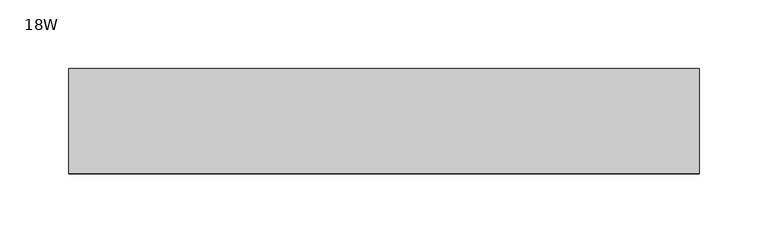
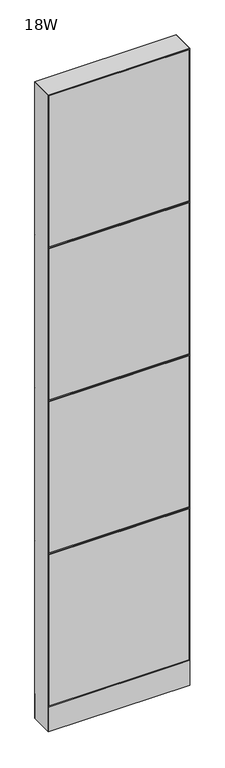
"""IFC4 building model written with IfcOpenShell, lengths in millimetres: furniture geometry, Steelcase - Montage - Frame - 86H - Enhanced Standard - Base Cavity : 18W."""

from ifc_helpers import new_model, si_unit, point, frame, frame_2d, origin, origin_with_axes, place, context, project, spatial, polyline, circle_curve, trimmed, segment, composite_curve, outline, extrude, faceted_brep, source, transform, mapped, element, save


def furniture_18w_77195693(model_context):
    return source(origin(), model_context, "Body", "SolidModel", [
        faceted_brep([(-5.4e-06, 38.102627, 1136.6500027), (6.3499917, 31.7526299, 1142.9999997), (450.8500047, 31.7526299, 1142.9999997), (457.2, 38.1026253, 1136.6500044), (450.8500047, 31.7526299, 1130.3000003), (6.3499917, 31.7526299, 1130.3000003)], [[[0, 1, 2, 3]], [[3, 4, 5, 0]], [[1, 5, 4, 2]], [[0, 5, 1]], [[2, 4, 3]]]),
        faceted_brep([(-5.4e-06, 38.102627, 612.7750027), (6.3499917, 31.7526299, 619.1249997), (450.8500047, 31.7526299, 619.1249997), (457.2, 38.1026253, 612.7750044), (450.8500047, 31.7526299, 606.4250003), (6.3499917, 31.7526299, 606.4250003)], [[[0, 1, 2, 3]], [[3, 4, 5, 0]], [[1, 5, 4, 2]], [[0, 5, 1]], [[2, 4, 3]]]),
        faceted_brep([(-5.4e-06, 38.102627, 1660.5250027), (6.3499917, 31.7526299, 1666.8749997), (450.8500047, 31.7526299, 1666.8749997), (457.2, 38.1026253, 1660.5250044), (450.8500047, 31.7526299, 1654.1750003), (6.3499917, 31.7526299, 1654.1750003)], [[[0, 1, 2, 3]], [[3, 4, 5, 0]], [[1, 5, 4, 2]], [[0, 5, 1]], [[2, 4, 3]]]),
        extrude(outline(polyline([(3.175, 31.7500194), (3.175, 38.1000194), (454.025, 38.1000194), (454.025, 31.7500194), (3.175, 31.7500194)])), frame((0.0, 0.0, 1663.7), z_axis=(0.0, 0.0, 1.0), x_axis=(1.0, 0.0, 0.0)), (0.0, 0.0, 1.0), 517.525),
        extrude(outline(polyline([(3.175, 31.7500194), (3.175, 38.1000194), (454.025, 38.1000194), (454.025, 31.7500194), (3.175, 31.7500194)])), frame((0.0, 0.0, 92.075), z_axis=(0.0, 0.0, 1.0), x_axis=(1.0, 0.0, 0.0)), (0.0, 0.0, 1.0), 517.525),
        extrude(outline(polyline([(3.175, 31.7500194), (3.175, 38.1000194), (454.025, 38.1000194), (454.025, 31.7500194), (3.175, 31.7500194)])), frame((0.0, 0.0, 615.95), z_axis=(0.0, 0.0, 1.0), x_axis=(1.0, 0.0, 0.0)), (0.0, 0.0, 1.0), 517.525),
        extrude(outline(polyline([(3.175, 31.7500194), (3.175, 38.1000194), (454.025, 38.1000194), (454.025, 31.7500194), (3.175, 31.7500194)])), frame((0.0, 0.0, 1139.825), z_axis=(0.0, 0.0, 1.0), x_axis=(1.0, 0.0, 0.0)), (0.0, 0.0, 1.0), 517.525),
        faceted_brep([(0.0, -38.1026297, 1136.65), (457.2, -38.1026297, 1136.65), (450.8500047, -31.7526299, 1142.9999997), (6.3499917, -31.7526299, 1142.9999997), (6.3499917, -31.7526299, 1130.3000003), (450.8500047, -31.7526299, 1130.3000003)], [[[0, 1, 2, 3]], [[1, 0, 4, 5]], [[3, 2, 5, 4]], [[0, 3, 4]], [[2, 1, 5]]]),
        faceted_brep([(0.0, -38.1026297, 612.775), (457.2, -38.1026297, 612.775), (450.8500047, -31.7526299, 619.1249997), (6.3499917, -31.7526299, 619.1249997), (6.3499917, -31.7526299, 606.4250003), (450.8500047, -31.7526299, 606.4250003)], [[[0, 1, 2, 3]], [[1, 0, 4, 5]], [[3, 2, 5, 4]], [[0, 3, 4]], [[2, 1, 5]]]),
        faceted_brep([(0.0, -38.1026297, 1660.525), (457.2, -38.1026297, 1660.525), (450.8500047, -31.7526299, 1666.8749997), (6.3499917, -31.7526299, 1666.8749997), (6.3499917, -31.7526299, 1654.1750003), (450.8500047, -31.7526299, 1654.1750003)], [[[0, 1, 2, 3]], [[1, 0, 4, 5]], [[3, 2, 5, 4]], [[0, 3, 4]], [[2, 1, 5]]]),
        extrude(outline(polyline([(3.175, -31.7500194), (454.025, -31.7500194), (454.025, -38.1000194), (3.175, -38.1000194), (3.175, -31.7500194)])), frame((0.0, 0.0, 1663.7), z_axis=(0.0, 0.0, 1.0), x_axis=(1.0, 0.0, 0.0)), (0.0, 0.0, 1.0), 517.525),
        extrude(outline(polyline([(3.175, -31.7500194), (454.025, -31.7500194), (454.025, -38.1000194), (3.175, -38.1000194), (3.175, -31.7500194)])), frame((0.0, 0.0, 92.075), z_axis=(0.0, 0.0, 1.0), x_axis=(1.0, 0.0, 0.0)), (0.0, 0.0, 1.0), 517.525),
        extrude(outline(polyline([(3.175, -31.7500194), (454.025, -31.7500194), (454.025, -38.1000194), (3.175, -38.1000194), (3.175, -31.7500194)])), frame((0.0, 0.0, 615.95), z_axis=(0.0, 0.0, 1.0), x_axis=(1.0, 0.0, 0.0)), (0.0, 0.0, 1.0), 517.525),
        extrude(outline(polyline([(3.175, -31.7500194), (454.025, -31.7500194), (454.025, -38.1000194), (3.175, -38.1000194), (3.175, -31.7500194)])), frame((0.0, 0.0, 1139.825), z_axis=(0.0, 0.0, 1.0), x_axis=(1.0, 0.0, 0.0)), (0.0, 0.0, 1.0), 517.525),
        extrude(outline(polyline([(6.350003, -31.7499985), (450.849997, -31.7499985), (457.2, -38.1000015), (0.0, -38.1000015), (6.350003, -31.7499985)])), frame((0.0, 0.0, 4.064), z_axis=(0.0, 0.0, 1.0), x_axis=(1.0, 0.0, 0.0)), (0.0, 0.0, 1.0), 84.835997),
        extrude(outline(polyline([(6.3500002, 31.7500017), (0.0, 38.1000015), (457.2, 38.1000015), (450.8500002, 31.7500017), (6.3500002, 31.7500017)])), frame((0.0, 0.0, 4.064), z_axis=(0.0, 0.0, 1.0), x_axis=(1.0, 0.0, 0.0)), (0.0, 0.0, 1.0), 84.835997),
        faceted_brep([(457.2, -38.1000015, 2184.4), (0.0, -38.1000015, 2184.4), (6.3500484, -31.749953, 2178.0499516), (450.8499516, -31.749953, 2178.0499516), (6.3500484, 31.749953, 2178.0499516), (450.8499516, 31.749953, 2178.0499516), (0.0, 38.1000015, 2184.4), (457.2, 38.1000015, 2184.4)], [[[0, 1, 2, 3]], [[3, 2, 4, 5]], [[6, 7, 5, 4]], [[1, 0, 7, 6]], [[2, 1, 6, 4]], [[0, 3, 5, 7]]]),
        extrude(outline(composite_curve([segment(trimmed(circle_curve(frame_2d((44.45, 0.0)), 15.24), [point((29.21, 0.0))], [point((59.69, 0.0))], False, "CARTESIAN"), True, "CONTINUOUS"), segment(trimmed(circle_curve(frame_2d((44.45, 0.0)), 15.24), [point((59.69, 0.0))], [point((29.21, 0.0))], False, "CARTESIAN"), True, "CONTINUOUS")], self_intersect=False)), origin_with_axes(), (0.0, 0.0, 1.0), 4.064),
        extrude(outline(composite_curve([segment(trimmed(circle_curve(frame_2d((412.75, 0.0)), 15.24), [point((397.51, 0.0))], [point((427.99, 0.0))], False, "CARTESIAN"), True, "CONTINUOUS"), segment(trimmed(circle_curve(frame_2d((412.75, 0.0)), 15.24), [point((427.99, 0.0))], [point((397.51, 0.0))], False, "CARTESIAN"), True, "CONTINUOUS")], self_intersect=False)), origin_with_axes(), (0.0, 0.0, 1.0), 4.064),
        faceted_brep([(457.2, -38.1000106, 4.064), (457.2, 38.1000015, 4.064), (457.2, 38.1000015, 2184.4), (457.2, -38.1000106, 2184.3999637), (0.0, 38.1000015, 4.064), (0.0, -38.1000015, 4.064), (0.0, -38.1000015, 2184.4), (0.0, 38.1000015, 2184.4), (450.8499879, 31.7500017, 606.425), (6.35, 31.7500017, 606.425), (6.3499998, 31.7500017, 619.125), (450.8499879, 31.7500017, 619.125), (6.35, -31.7499985, 619.125), (450.8499879, -31.7499985, 619.125), (6.350003, -31.7499985, 606.425), (450.8499879, -31.7499985, 606.425), (450.8499879, 31.7500017, 1130.3), (6.35, 31.7500017, 1130.3), (6.3499998, 31.7500017, 1143.0), (450.8499879, 31.7500017, 1143.0), (6.35, -31.7499985, 1143.0), (450.8499879, -31.7499985, 1143.0), (6.350003, -31.7499985, 1130.3), (450.8499879, -31.7499985, 1130.3), (450.8499879, 31.7500017, 1654.175), (6.35, 31.7500017, 1654.175), (6.3499998, 31.7500017, 1666.875), (450.8499879, 31.7500017, 1666.875), (6.35, -31.7499985, 1666.875), (450.8499879, -31.7499985, 1666.875), (6.350003, -31.7499985, 1654.175), (450.8499879, -31.7499985, 1654.175), (6.35, 31.7500015, 4.064), (6.35, -31.7500015, 4.064), (450.8499879, 31.7499894, 4.064), (450.8499879, -31.7499985, 4.064), (6.35, 31.7500015, 2178.05), (6.35, -31.7500015, 2178.05), (450.8499879, -31.7499985, 2178.0499516), (450.8499879, 31.7499895, 2178.0499516)], [[[0, 1, 2, 3]], [[4, 5, 6, 7]], [[8, 9, 10, 11]], [[11, 10, 12, 13]], [[13, 12, 14, 15]], [[9, 8, 15, 14]], [[16, 17, 18, 19]], [[19, 18, 20, 21]], [[21, 20, 22, 23]], [[17, 16, 23, 22]], [[24, 25, 26, 27]], [[27, 26, 28, 29]], [[29, 28, 30, 31]], [[25, 24, 31, 30]], [[32, 33, 5, 4]], [[34, 1, 0, 35]], [[32, 4, 7, 36, 26, 25, 18, 17, 10, 9]], [[5, 33, 14, 12, 22, 20, 30, 28, 37, 6]], [[28, 26, 36, 37]], [[33, 32, 9, 14]], [[18, 25, 30, 20]], [[10, 17, 22, 12]], [[27, 29, 38, 39]], [[34, 35, 15, 8]], [[16, 11, 13, 23]], [[24, 19, 21, 31]], [[35, 0, 3, 38, 29, 31, 21, 23, 13, 15]], [[1, 34, 8, 11, 16, 19, 24, 27, 39, 2]], [[7, 6, 37, 36]], [[3, 2, 39, 38]]]),
    ])


if __name__ == "__main__":
    model = new_model("IFC4")
    model_context = context("Model", 3, world=origin())
    ifc_project = project(units=[si_unit("LENGTHUNIT", "METRE", prefix="MILLI")], contexts=[model_context])
    site = spatial("IfcSite", under=ifc_project)
    building = spatial("IfcBuilding", under=site)
    placement = place(None, origin())
    furniture_18w_shape = furniture_18w_77195693(model_context)
    element("IfcFurniture", 1, ObjectType="Steelcase - Montage - Frame - 86H - Enhanced Standard - Base Cavity : 18W", at=placement, inside=building, context=model_context, shape_type="MappedRepresentation", body=[
        mapped(furniture_18w_shape, transform((0.0, 0.0, 0.0), x_axis=(1.0, 0.0, 0.0), y_axis=(0.0, 1.0, 0.0), z_axis=(0.0, 0.0, 1.0))),
    ])
    save(model, "model.ifc")
